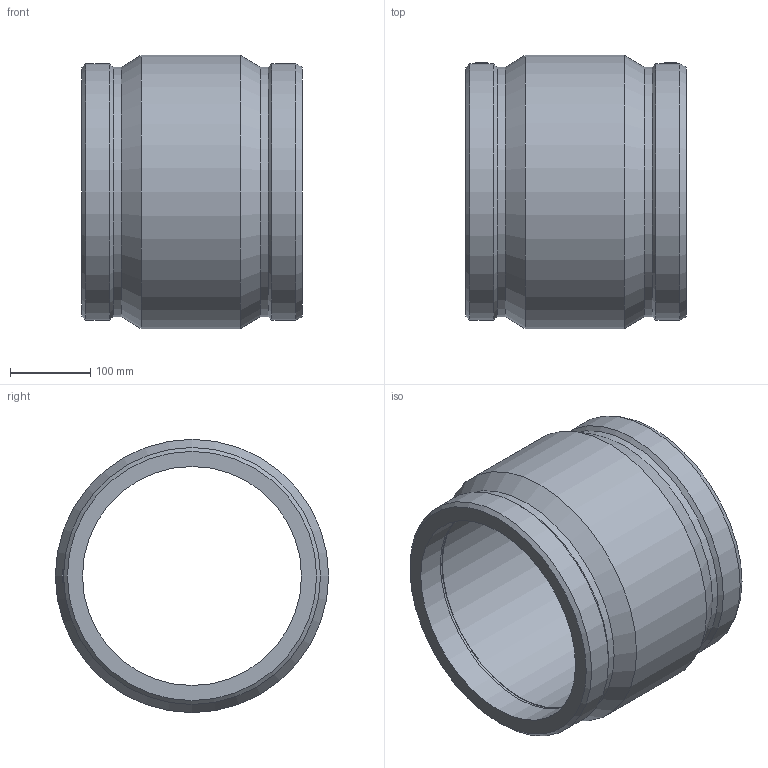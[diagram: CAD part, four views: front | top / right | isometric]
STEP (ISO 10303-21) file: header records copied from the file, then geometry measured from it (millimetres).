
FILE_DESCRIPTION(/* description */ ('PLASSON IPS COUPLER 10'''''),/* implementation_level */ '2;1');
FILE_NAME(/* name */ 'C:\Dropbox\KIMPROJECTS-Inventor 2019\99-16-3568-Processing Inch\ASTM ElectroFusion 2021\5901B\(_AS)5901B004100.ipt.stp',/* time_stamp */ '2021-08-30T09:48:38+03:00',/* author */ ('KIM'),/* organization */ (''),/* preprocessor_version */ 'ST-DEVELOPER v17.2',/* originating_system */ 'Autodesk Inventor 2019',/* authorisation */ '');
FILE_SCHEMA (('AUTOMOTIVE_DESIGN { 1 0 10303 214 3 1 1 }'));
Length unit declared in the file: inch
Products named in the file (1): *5901B004100
Bounding box: 274.32 x 340.36 x 340.36 mm (x, y, z)
Volume: 7327537.5 mm3; surface area: 571599.2 mm2
Topology: 1 solids, 1 shells, 32 faces, 76 edges, 54 vertices
Faces by surface type: cylinder 12, plane 10, cone 10
Full cylindrical faces by diameter (mm): 4 x2, 10 x2, 272.7 x3, 310.34 x2, 319.938 x2, 340.36 x1
Entity records: 1077 total; most frequent: CARTESIAN_POINT 231, DIRECTION 188, ORIENTED_EDGE 152, AXIS2_PLACEMENT_3D 83, EDGE_CURVE 76, VERTEX_POINT 54, CIRCLE 50, EDGE_LOOP 42
